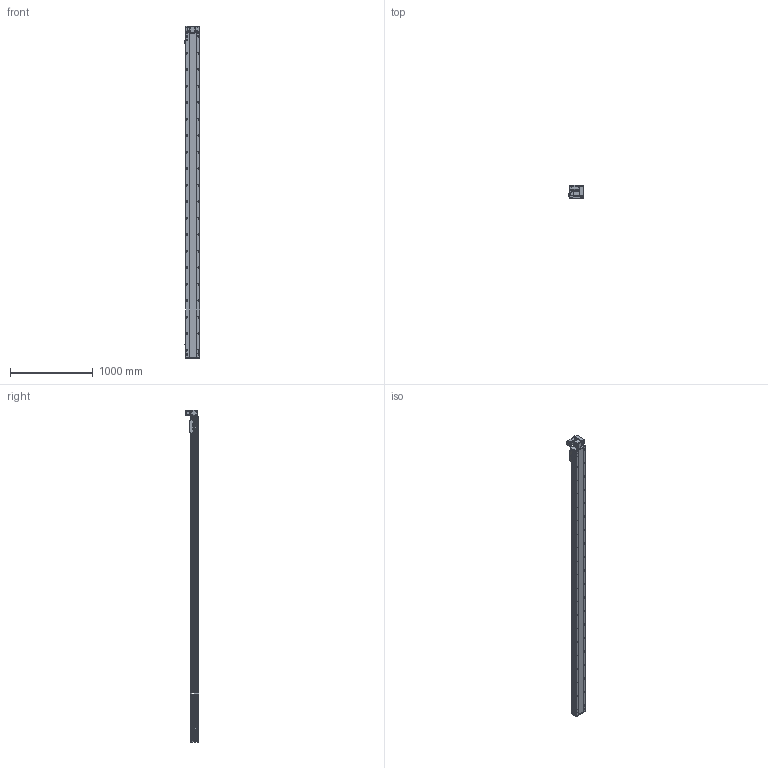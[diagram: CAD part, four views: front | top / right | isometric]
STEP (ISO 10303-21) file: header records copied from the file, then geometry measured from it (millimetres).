
FILE_DESCRIPTION (( 'STEP AP214' ), '1' );
FILE_NAME ('RTB17S-XX-3650-RW-M40-C4.STEP', '2025-12-11T09:22:41', ( '' ), ( '' ), 'SwSTEP 2.0', 'SolidWorks 2018', '' );
FILE_SCHEMA (( 'AUTOMOTIVE_DESIGN' ));
Length unit declared in the file: millimetre
Products named in the file (14): RTB14-L-008-M20--萇儂啣^RTB17S-RW-々湍釱蚾饜-400W_RTB17S-XX-XX-RW-M40-C4; RTB17S-RW-々湍釱蚾饜-400W^RTB17S-XX-XX-RW-M40-C4; RMP17S-L-014-T20--々湍釱^RTB17S-RW-々湍釱蚾饜-400W_RTB17S-XX-XX-RW-M40-C4; RTB14-L-017P^RTB17S-RW-々湍釱蚾饜-400W_RTB17S-XX-XX-RW-M40-C4; RTB17S-L-004佪裝蹟譫蟀諉釱^RTB17S-XX-XX-RW-M40-C4; RTB17S-L-007奻裔^RTB17S-XX-XX-RW-M40-C4; RTH13-BL-012覜茼え俋离^RTB17S-XX-XX-RW-M40-C4; 400W侜督萇儂^RTB17S-XX-XX-RW-M40-C4; OMRON EE-SX672 传感器^RTB17S-XX-XX-RW-M40-C4; RTB17S-XX-3650-RW-M40-C4; RTB14-L-005P--轴承塑胶压盖^RTB17S-RW-皮带座装配-400W_RTB17S-XX-XX-RW-M40-C4; RTB17-R-011菁釱^RTB17S-XX-XX-RW-M40-C4; RTB17S-L-001耜醱啣^RTB17S-XX-XX-RW-M40-C4; RTB14-L-018P^RTB17S-RW-々湍釱蚾饜-400W_RTB17S-XX-XX-RW-M40-C4
Assembly tree (16 placements, depth 3):
  RTB17S-XX-3650-RW-M40-C4
    RTB17-R-011菁釱^RTB17S-XX-XX-RW-M40-C4
    RTB17S-L-007奻裔^RTB17S-XX-XX-RW-M40-C4
    OMRON EE-SX672 传感器^RTB17S-XX-XX-RW-M40-C4  x3
    RTB17S-L-001耜醱啣^RTB17S-XX-XX-RW-M40-C4
    400W侜督萇儂^RTB17S-XX-XX-RW-M40-C4
    RTB17S-L-004佪裝蹟譫蟀諉釱^RTB17S-XX-XX-RW-M40-C4
    RTH13-BL-012覜茼え俋离^RTB17S-XX-XX-RW-M40-C4
    RTB17S-RW-々湍釱蚾饜-400W^RTB17S-XX-XX-RW-M40-C4
      RMP17S-L-014-T20--々湍釱^RTB17S-RW-々湍釱蚾饜-400W_RTB17S-XX-XX-RW-M40-C4
      RTB14-L-005P--轴承塑胶压盖^RTB17S-RW-皮带座装配-400W_RTB17S-XX-XX-RW-M40-C4
      RTB14-L-008-M20--萇儂啣^RTB17S-RW-々湍釱蚾饜-400W_RTB17S-XX-XX-RW-M40-C4
      RTB14-L-017P^RTB17S-RW-々湍釱蚾饜-400W_RTB17S-XX-XX-RW-M40-C4  x2
      RTB14-L-018P^RTB17S-RW-々湍釱蚾饜-400W_RTB17S-XX-XX-RW-M40-C4
Bounding box: 183.5 x 160.5 x 4022.5 mm (x, y, z)
Volume: 33979620.4 mm3; surface area: 3856485.6 mm2
Topology: 15 solids, 15 shells, 2429 faces, 6843 edges, 4473 vertices
Faces by surface type: plane 1096, cylinder 885, bspline 301, cone 139, torus 8
Entity records: 73385 total; most frequent: CARTESIAN_POINT 21048, ORIENTED_EDGE 10530, DIRECTION 9656, EDGE_CURVE 5265, VERTEX_POINT 3461, AXIS2_PLACEMENT_3D 3391, VECTOR 2874, LINE 2874
